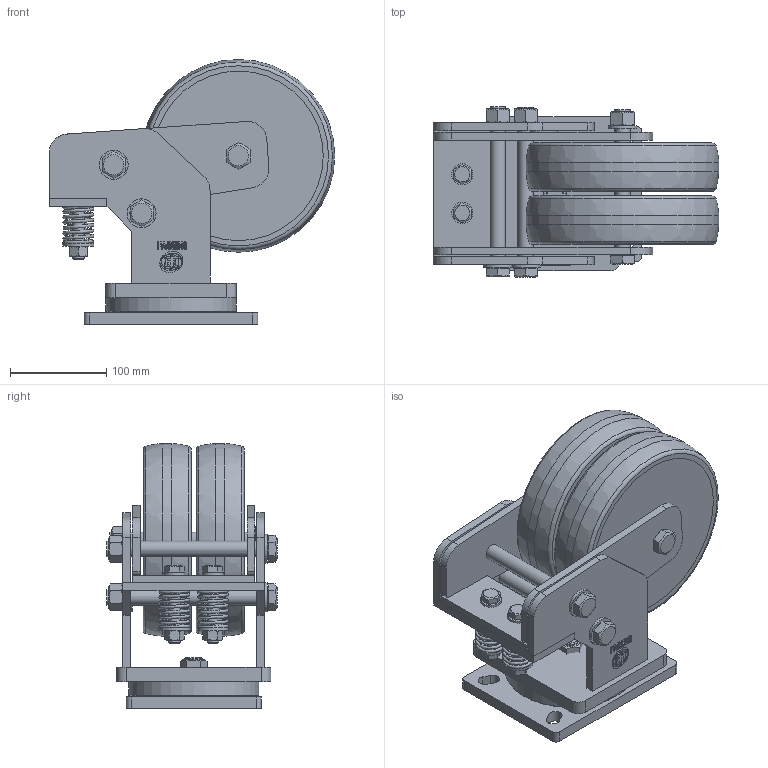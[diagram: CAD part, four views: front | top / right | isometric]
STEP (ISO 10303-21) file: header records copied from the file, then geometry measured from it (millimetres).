
FILE_DESCRIPTION(/* description */ (''),/* implementation_level */ '2;1');
FILE_NAME(/* name */ '45F09_8.stp',/* time_stamp */ '2023-04-27T08:49:34+08:00',/* author */ (''),/* organization */ (''),/* preprocessor_version */ 'ST-DEVELOPER v16',/* originating_system */ 'SIEMENS PLM Software NX 10.0',/* authorisation */ '');
FILE_SCHEMA (('AUTOMOTIVE_DESIGN { 1 0 10303 214 3 1 1 1 }'));
Length unit declared in the file: millimetre
Products named in the file (1): 8 双 万定
Bounding box: 296.45 x 176.45 x 275.02 mm (x, y, z)
Volume: 4748987.3 mm3; surface area: 689971.9 mm2
Topology: 44 solids, 44 shells, 838 faces, 2156 edges, 1437 vertices
Faces by surface type: plane 593, cylinder 146, sphere 30, cone 27, bspline 26, torus 16
Full cylindrical faces by diameter (mm): 12 x2, 12.001 x2, 13 x4, 16 x3, 16.001 x3, 16.3 x8, 17 x7, 18 x2, 20 x1, 22 x2, 26 x2, 30 x5, 32 x2, 34 x1, 35 x1, 36 x1, 47 x1, 90 x1, 120 x1, 135 x1, 176 x4, 200 x2
Entity records: 31484 total; most frequent: CARTESIAN_POINT 12623, ORIENTED_EDGE 3840, DIRECTION 3398, EDGE_CURVE 1920, VERTEX_POINT 1332, AXIS2_PLACEMENT_3D 1280, EDGE_LOOP 1138, ADVANCED_FACE 838
